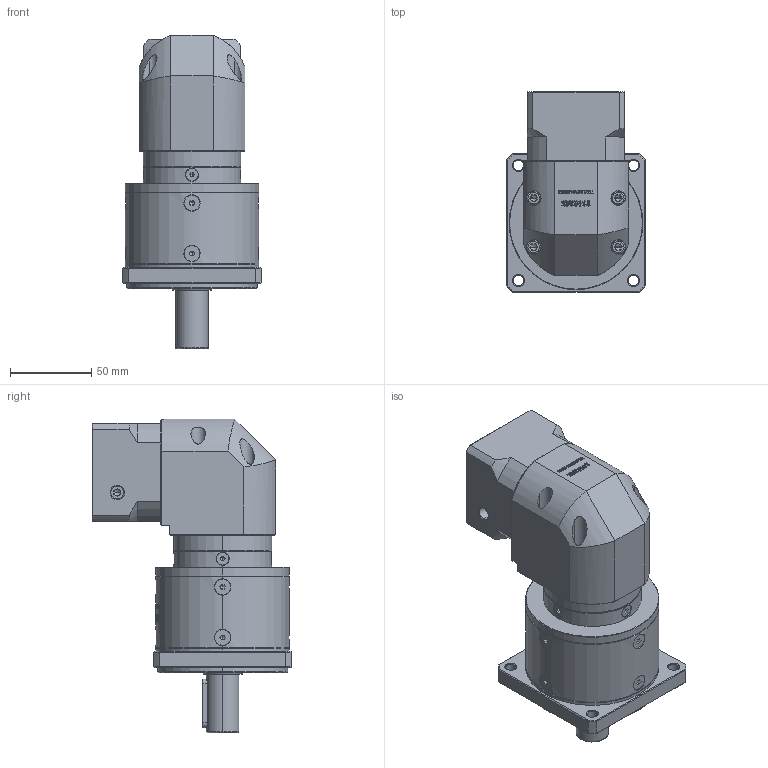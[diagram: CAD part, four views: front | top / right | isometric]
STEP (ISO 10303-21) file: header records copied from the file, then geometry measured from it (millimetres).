
FILE_DESCRIPTION (( 'STEP AP214' ), '1' );
FILE_NAME ('ZFR80-D20-L2-8-38.1-47.14x47.14-M4.step', '2022-05-08T14:50:20', ( '' ), ( 'Microsoft' ), 'SwSTEP 2.0', 'SolidWorks 2016', '' );
FILE_SCHEMA (( 'AUTOMOTIVE_DESIGN' ));
Length unit declared in the file: millimetre
Products named in the file (1): ZFR80-D20-L2-8-38.1-47.14x47.14-M4
Bounding box: 85 x 122.7 x 192.5 mm (x, y, z)
Volume: 790092.3 mm3; surface area: 103954.6 mm2
Topology: 17 solids, 18 shells, 3073 faces, 8191 edges, 5276 vertices
Faces by surface type: plane 1602, bspline 608, cylinder 462, cone 381, torus 20
Entity records: 163375 total; most frequent: CARTESIAN_POINT 58318, ORIENTED_EDGE 16290, DIRECTION 12431, EDGE_CURVE 8145, VERTEX_POINT 5276, LINE 4971, VECTOR 4971, AXIS2_PLACEMENT_3D 3730
